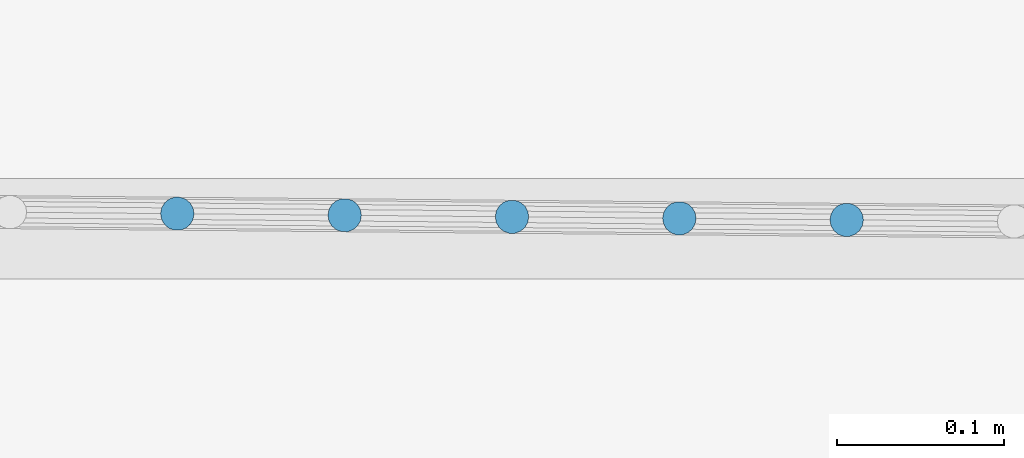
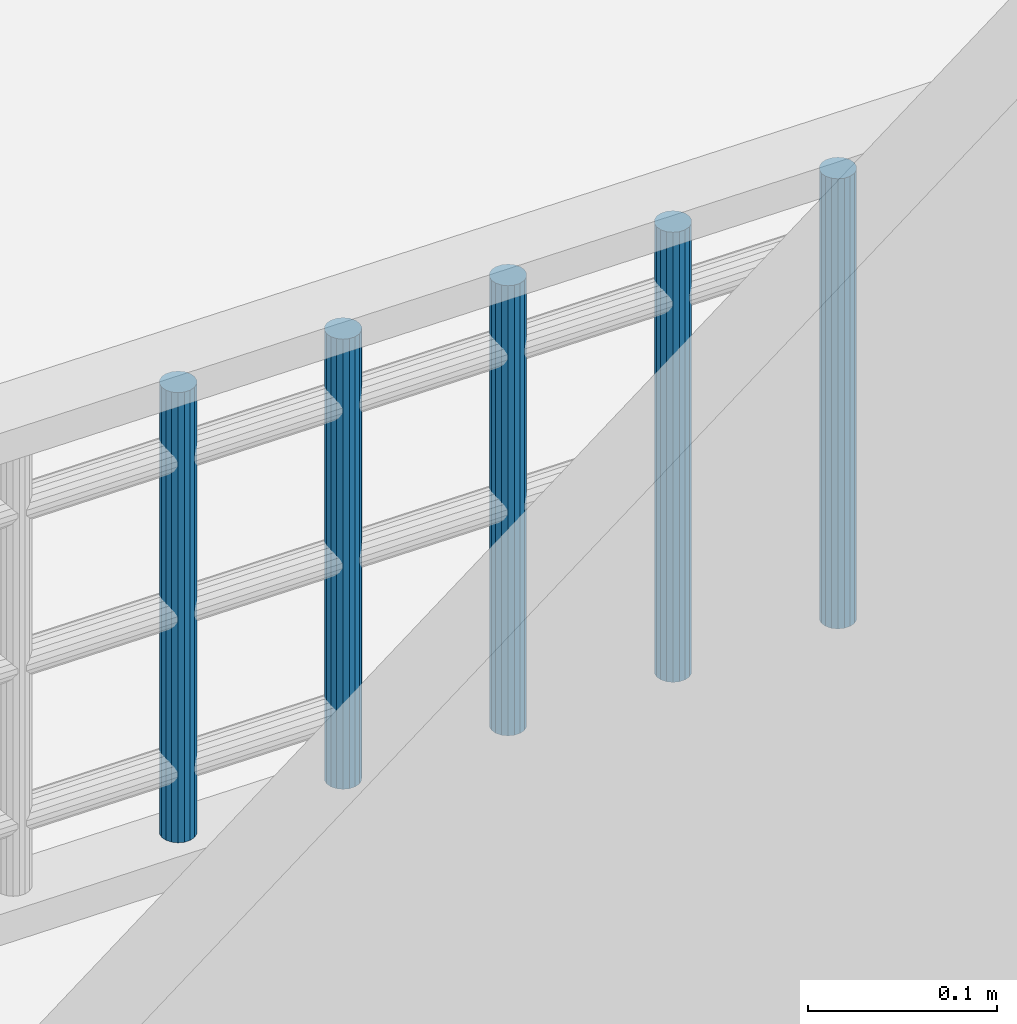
# One storey, part 23 of 66: 5 members, 1 element without a shape of its own.
"""IFC2X3 building model written with IfcOpenShell, lengths in centimetres."""

from ifc_helpers import new_model, entity, si_unit, converted_unit, direction, frame, origin, origin_with_axes, place, context, subcontext, project, spatial, faceted_brep, material, type_object, element, aggregate, save


model = new_model("IFC2X3")

# Units and contexts
model_context = context("Model", 3, precision=0.0001, world=origin(), true_north=direction((0.225632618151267, 0.974212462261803, 0.0)))
body_context = subcontext(model_context, "Body", "Model", "MODEL_VIEW")
ifc_project = project(units=[si_unit("LENGTHUNIT", "METRE", prefix="CENTI"), si_unit("AREAUNIT", "SQUARE_METRE", prefix="CENTI"), si_unit("VOLUMEUNIT", "CUBIC_METRE", prefix="CENTI"), converted_unit("PLANEANGLEUNIT", "DEGREE", entity("IfcRatioMeasure", 0.0174532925), si_unit("PLANEANGLEUNIT", "RADIAN"), dimensions=[0, 0, 0, 0, 0, 0, 0])], contexts=[model_context])

# Site, building, storey
site_placement = place(None, origin_with_axes())
site = spatial("IfcSite", under=ifc_project, at=site_placement, Name="Default Site", CompositionType="ELEMENT")
building_placement = place(site_placement, origin_with_axes())
building = spatial("IfcBuilding", under=site, at=building_placement, Name="Default Building", CompositionType="ELEMENT")
storey_placement = place(building_placement, frame((0.0, 0.0, 477.795358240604), z_axis=(0.0, 0.0, 1.0), x_axis=(1.0, 0.0, 0.0)))
storey = spatial("IfcBuildingStorey", under=building, at=storey_placement, Name="Niveau 1", CompositionType="ELEMENT", Elevation=477.795358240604)

# Assembly, members
building_element_proxy_type = type_object("IfcBuildingElementProxyType", Name="Type Object", PredefinedType="NOTDEFINED")
assembly_placement = place(storey_placement, frame((1081.09889200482, -848.13, 9.99999999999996), z_axis=(0.0, 0.0, 1.0), x_axis=(-0.999957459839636, 0.00922380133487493, 0.0)))
assembly = element("IfcElementAssembly", 1, at=assembly_placement, inside=storey, type_object=building_element_proxy_type, Name="Panneau 1702007", ObjectType="Precast panel", PredefinedType="USERDEFINED")
ifc_material = material(Name="Aluminium satiné")
member_1_placement = place(assembly_placement, frame((57.4396908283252, 0.342020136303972, 31.0000002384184), z_axis=(0.0, 0.0, 1.0), x_axis=(0.499995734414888, -0.866027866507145, 0.0)))
member_1 = element("IfcMember", 2, at=member_1_placement, material=ifc_material, Name="4294967034", context=body_context, shape_type="Brep", body=[
    faceted_brep([(-1.0325074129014e-12, -4.77395900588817e-13, 4.05231403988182e-13), (-0.347295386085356, -4.88498130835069e-13, 4.05231403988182e-13), (-0.673647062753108, -0.118784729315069, 4.05231403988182e-13), (-0.939691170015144, -0.342025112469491, 4.05231403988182e-13), (-1.1133359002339, -0.642790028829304, 4.05231403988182e-13), (-1.17364232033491, -0.984811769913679, 4.05231403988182e-13), (-1.1133337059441, -1.32683238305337, 4.05231403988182e-13), (-0.939683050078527, -1.62759729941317, 4.05231403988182e-13), (-0.673637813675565, -1.85083429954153, 4.05231403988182e-13), (-0.347285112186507, -1.96961451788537, 4.05231403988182e-13), (1.02738978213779e-05, -1.96961451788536, 4.05231403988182e-13), (0.326361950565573, -1.85082978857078, 4.05231403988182e-13), (0.592406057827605, -1.62758940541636, 4.05231403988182e-13), (0.766050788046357, -1.32682448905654, 4.05231403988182e-13), (0.826357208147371, -0.984802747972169, 4.05231403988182e-13), (0.766048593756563, -0.642782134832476, 4.05231403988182e-13), (0.592397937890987, -0.342017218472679, 4.05231403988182e-13), (0.326352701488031, -0.118780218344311, 4.05231403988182e-13), (0.326352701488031, -0.118780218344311, -29.0000002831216), (0.592397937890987, -0.342017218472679, -29.0000002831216), (0.766048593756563, -0.642782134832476, -29.0000002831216), (0.826357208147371, -0.984802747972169, -29.0000002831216), (0.766050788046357, -1.32682448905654, -29.0000002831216), (0.592406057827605, -1.62758940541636, -29.0000002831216), (0.326361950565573, -1.85082978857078, -29.0000002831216), (1.02738978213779e-05, -1.96961451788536, -29.0000002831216), (-0.347285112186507, -1.96961451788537, -29.0000002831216), (-0.673637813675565, -1.85083429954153, -29.0000002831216), (-0.939683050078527, -1.62759729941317, -29.0000002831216), (-1.1133337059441, -1.32683238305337, -29.0000002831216), (-1.17364232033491, -0.984811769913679, -29.0000002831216), (-1.1133359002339, -0.642790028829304, -29.0000002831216), (-0.939691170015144, -0.342025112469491, -29.0000002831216), (-0.673647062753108, -0.118784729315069, -29.0000002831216), (-0.347295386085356, -4.88498130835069e-13, -29.0000002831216), (-1.0325074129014e-12, -4.77395900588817e-13, -29.0000002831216), (0.592398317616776, -0.342016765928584, 4.05231403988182e-13), (0.592398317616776, -0.342016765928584, -29.0000002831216), (0.766047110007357, -0.642782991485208, 4.05231403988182e-13), (0.766047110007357, -0.642782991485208, -29.0000002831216), (0.826357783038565, -0.984802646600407, 4.05231403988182e-13), (0.826357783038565, -0.984802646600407, -29.0000002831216), (0.766051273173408, -1.32682457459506, 4.05231403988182e-13), (0.766051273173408, -1.32682457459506, -29.0000002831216), (0.592406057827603, -1.62758940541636, 4.05231403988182e-13), (0.592406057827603, -1.62758940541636, -29.0000002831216), (0.326361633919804, -1.85082941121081, 4.05231403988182e-13), (0.326361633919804, -1.85082941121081, -29.0000002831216), (1.00742373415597e-05, -1.96961396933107, 4.05231403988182e-13), (1.00742373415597e-05, -1.96961396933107, -29.0000002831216), (-0.347285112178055, -1.96961623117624, 4.05231403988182e-13), (-0.347285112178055, -1.96961623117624, -29.0000002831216), (-0.673637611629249, -1.85083374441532, 4.05231403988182e-13), (-0.673637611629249, -1.85083374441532, -29.0000002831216), (-0.939683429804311, -1.62759775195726, 4.05231403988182e-13), (-0.939683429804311, -1.62759775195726, -29.0000002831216), (-1.1133322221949, -1.32683152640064, 4.05231403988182e-13), (-1.1133322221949, -1.32683152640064, -29.0000002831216), (-1.1736428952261, -0.984811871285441, 4.05231403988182e-13), (-1.1736428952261, -0.984811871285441, -29.0000002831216), (-1.11333638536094, -0.642789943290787, 4.05231403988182e-13), (-1.11333638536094, -0.642789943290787, -29.0000002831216), (-0.939691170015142, -0.342025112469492, 4.05231403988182e-13), (-0.939691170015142, -0.342025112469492, -29.0000002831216), (-0.67364674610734, -0.118785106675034, 4.05231403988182e-13), (-0.67364674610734, -0.118785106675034, -29.0000002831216), (-0.347295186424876, -5.48554780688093e-07, 4.05231403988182e-13), (-0.347295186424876, -5.48554780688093e-07, -29.0000002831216), (-9.48457941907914e-12, 1.71329038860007e-06, 4.05231403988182e-13), (-9.48457941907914e-12, 1.71329038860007e-06, -29.0000002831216), (0.326352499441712, -0.118780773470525, 4.05231403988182e-13), (0.326352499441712, -0.118780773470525, -29.0000002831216)], [[[0, 1, 2, 3, 4, 5, 6, 7, 8, 9, 10, 11, 12, 13, 14, 15, 16, 17]], [[18, 19, 20, 21, 22, 23, 24, 25, 26, 27, 28, 29, 30, 31, 32, 33, 34, 35]], [[17, 36, 37, 18]], [[16, 38, 39, 19]], [[15, 40, 41, 20]], [[14, 42, 43, 21]], [[13, 44, 45, 22]], [[12, 46, 47, 23]], [[11, 48, 49, 24]], [[10, 50, 51, 25]], [[9, 52, 53, 26]], [[8, 54, 55, 27]], [[7, 56, 57, 28]], [[6, 58, 59, 29]], [[5, 60, 61, 30]], [[4, 62, 63, 31]], [[3, 64, 65, 32]], [[2, 66, 67, 33]], [[1, 68, 69, 34]], [[0, 70, 71, 35]]]),
])
member_2_placement = place(assembly_placement, frame((67.4396932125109, 0.342020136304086, 31.0000002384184), z_axis=(0.0, 0.0, 1.0), x_axis=(0.499995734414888, -0.866027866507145, 0.0)))
member_2 = element("IfcMember", 3, at=member_2_placement, material=ifc_material, Name="4294967033", context=body_context, shape_type="Brep", body=[
    faceted_brep([(-1.0769163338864e-12, -4.32986979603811e-13, 4.05231403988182e-13), (-0.347295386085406, -4.44089209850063e-13, 4.05231403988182e-13), (-0.673647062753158, -0.118784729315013, 4.05231403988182e-13), (-0.939691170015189, -0.342025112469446, 4.05231403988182e-13), (-1.11333888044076, -0.642795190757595, 4.05231403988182e-13), (-1.17364232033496, -0.984811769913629, 4.05231403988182e-13), (-1.11333370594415, -1.32683238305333, 4.05231403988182e-13), (-0.939686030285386, -1.62760246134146, 4.05231403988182e-13), (-0.67364079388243, -1.85083946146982, 4.05231403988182e-13), (-0.347288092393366, -1.96961967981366, 4.05231403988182e-13), (1.02738977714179e-05, -1.96961451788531, 4.05231403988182e-13), (0.326361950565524, -1.85082978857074, 4.05231403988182e-13), (0.592403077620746, -1.62759456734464, 4.05231403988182e-13), (0.766050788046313, -1.32682448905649, 4.05231403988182e-13), (0.826357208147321, -0.984802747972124, 4.05231403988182e-13), (0.766048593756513, -0.64278213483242, 4.05231403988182e-13), (0.592397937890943, -0.342017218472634, 4.05231403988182e-13), (0.326352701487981, -0.118780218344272, 4.05231403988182e-13), (0.326352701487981, -0.118780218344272, -29.0000002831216), (0.592397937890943, -0.342017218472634, -29.0000002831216), (0.766048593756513, -0.64278213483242, -29.0000002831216), (0.826357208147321, -0.984802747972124, -29.0000002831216), (0.766050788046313, -1.32682448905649, -29.0000002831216), (0.592403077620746, -1.62759456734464, -29.0000002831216), (0.326361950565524, -1.85082978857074, -29.0000002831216), (1.02738977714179e-05, -1.96961451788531, -29.0000002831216), (-0.347288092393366, -1.96961967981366, -29.0000002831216), (-0.67364079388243, -1.85083946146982, -29.0000002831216), (-0.939686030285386, -1.62760246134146, -29.0000002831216), (-1.11333370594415, -1.32683238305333, -29.0000002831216), (-1.17364232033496, -0.984811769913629, -29.0000002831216), (-1.11333888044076, -0.642795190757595, -29.0000002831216), (-0.939691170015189, -0.342025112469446, -29.0000002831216), (-0.673647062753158, -0.118784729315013, -29.0000002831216), (-0.347295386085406, -4.44089209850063e-13, -29.0000002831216), (-1.0769163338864e-12, -4.32986979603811e-13, -29.0000002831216), (0.592398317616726, -0.342016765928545, 4.05231403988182e-13), (0.592398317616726, -0.342016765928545, -29.0000002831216), (0.766047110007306, -0.642782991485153, 4.05231403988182e-13), (0.766047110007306, -0.642782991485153, -29.0000002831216), (0.826357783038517, -0.984802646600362, 4.05231403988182e-13), (0.826357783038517, -0.984802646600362, -29.0000002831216), (0.76605127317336, -1.32682457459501, 4.05231403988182e-13), (0.76605127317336, -1.32682457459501, -29.0000002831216), (0.592403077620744, -1.62759456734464, 4.05231403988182e-13), (0.592403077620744, -1.62759456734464, -29.0000002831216), (0.326362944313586, -1.85083097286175, 4.05231403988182e-13), (0.326362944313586, -1.85083097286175, -29.0000002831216), (1.00742372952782e-05, -1.96961396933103, 4.05231403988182e-13), (1.00742372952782e-05, -1.96961396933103, -29.0000002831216), (-0.347288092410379, -1.96961623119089, 4.05231403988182e-13), (-0.347288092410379, -1.96961623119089, -29.0000002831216), (-0.673640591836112, -1.85083890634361, 4.05231403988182e-13), (-0.673640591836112, -1.85083890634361, -29.0000002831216), (-0.939686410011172, -1.62760291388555, 4.05231403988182e-13), (-0.939686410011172, -1.62760291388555, -29.0000002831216), (-1.11333669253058, -1.3268341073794, 4.05231403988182e-13), (-1.11333669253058, -1.3268341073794, -29.0000002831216), (-1.17364289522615, -0.984811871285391, 4.05231403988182e-13), (-1.17364289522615, -0.984811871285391, -29.0000002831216), (-1.11333735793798, -0.642795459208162, 4.05231403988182e-13), (-1.11333735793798, -0.642795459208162, -29.0000002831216), (-0.939691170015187, -0.342025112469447, 4.05231403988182e-13), (-0.939691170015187, -0.342025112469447, -29.0000002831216), (-0.673646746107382, -0.118785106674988, 4.05231403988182e-13), (-0.673646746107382, -0.118785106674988, -29.0000002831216), (-0.347295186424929, -5.48554726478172e-07, 4.05231403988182e-13), (-0.347295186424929, -5.48554726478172e-07, -29.0000002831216), (-9.52898834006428e-12, 1.71329043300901e-06, 4.05231403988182e-13), (-9.52898834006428e-12, 1.71329043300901e-06, -29.0000002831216), (0.326352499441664, -0.11878077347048, 4.05231403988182e-13), (0.326352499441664, -0.11878077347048, -29.0000002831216)], [[[0, 1, 2, 3, 4, 5, 6, 7, 8, 9, 10, 11, 12, 13, 14, 15, 16, 17]], [[18, 19, 20, 21, 22, 23, 24, 25, 26, 27, 28, 29, 30, 31, 32, 33, 34, 35]], [[17, 36, 37, 18]], [[16, 38, 39, 19]], [[15, 40, 41, 20]], [[14, 42, 43, 21]], [[13, 44, 45, 22]], [[12, 46, 47, 23]], [[11, 48, 49, 24]], [[10, 50, 51, 25]], [[9, 52, 53, 26]], [[8, 54, 55, 27]], [[7, 56, 57, 28]], [[6, 58, 59, 29]], [[5, 60, 61, 30]], [[4, 62, 63, 31]], [[3, 64, 65, 32]], [[2, 66, 67, 33]], [[1, 68, 69, 34]], [[0, 70, 71, 35]]]),
])
member_3_placement = place(assembly_placement, frame((77.4396955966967, 0.342020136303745, 31.0000002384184), z_axis=(0.0, 0.0, 1.0), x_axis=(0.500008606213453, -0.866020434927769, 0.0)))
member_3 = element("IfcMember", 4, at=member_3_placement, material=ifc_material, Name="4294967032", context=body_context, shape_type="Brep", body=[
    faceted_brep([(-1.19904086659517e-12, -6.21724893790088e-13, 5.05151476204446e-13), (-0.347298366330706, -6.21724893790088e-13, 5.05151476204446e-13), (-0.673651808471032, -0.118779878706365, 5.05151476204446e-13), (-0.939696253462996, -0.34201114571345, 5.05151476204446e-13), (-1.11334843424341, -0.642778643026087, 5.05151476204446e-13), (-1.17365993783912, -0.98479948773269, 5.05151476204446e-13), (-1.11335640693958, -1.32682099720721, 5.05151476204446e-13), (-0.939710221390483, -1.62758849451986, 5.05151476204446e-13), (-0.673668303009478, -1.85082944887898, 5.05151476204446e-13), (-0.347317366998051, -1.96961451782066, 5.05151476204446e-13), (-2.19809520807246e-05, -1.96961967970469, 5.05151476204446e-13), (0.326331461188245, -1.85083980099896, 5.05151476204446e-13), (0.592378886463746, -1.62760337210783, 5.05151476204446e-13), (0.766031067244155, -1.3268358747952, 5.05151476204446e-13), (0.826339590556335, -0.984820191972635, 5.05151476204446e-13), (0.766036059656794, -0.642798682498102, 5.05151476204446e-13), (0.592392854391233, -0.342026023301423, 5.05151476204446e-13), (0.326347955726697, -0.118790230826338, 5.05151476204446e-13), (0.326347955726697, -0.118790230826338, -29.0000002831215), (0.592392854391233, -0.342026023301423, -29.0000002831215), (0.766036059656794, -0.642798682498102, -29.0000002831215), (0.826339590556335, -0.984820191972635, -29.0000002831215), (0.766031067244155, -1.3268358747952, -29.0000002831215), (0.592378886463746, -1.62760337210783, -29.0000002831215), (0.326331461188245, -1.85083980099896, -29.0000002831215), (-2.19809520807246e-05, -1.96961967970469, -29.0000002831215), (-0.347317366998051, -1.96961451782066, -29.0000002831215), (-0.673668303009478, -1.85082944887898, -29.0000002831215), (-0.939710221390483, -1.62758849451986, -29.0000002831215), (-1.11335640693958, -1.32682099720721, -29.0000002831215), (-1.17365993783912, -0.98479948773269, -29.0000002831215), (-1.11334843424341, -0.642778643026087, -29.0000002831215), (-0.939696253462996, -0.34201114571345, -29.0000002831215), (-0.673651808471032, -0.118779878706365, -29.0000002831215), (-0.347298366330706, -6.21724893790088e-13, -29.0000002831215), (-1.19904086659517e-12, -6.21724893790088e-13, -29.0000002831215), (0.592389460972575, -0.342030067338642, 5.05151476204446e-13), (0.592389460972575, -0.342030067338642, -29.0000002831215), (0.766039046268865, -0.642796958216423, 5.05151476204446e-13), (0.766039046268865, -0.642796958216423, -29.0000002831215), (0.826340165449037, -0.984820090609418, 5.05151476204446e-13), (0.826340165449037, -0.984820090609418, -29.0000002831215), (0.766029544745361, -1.326835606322, 5.05151476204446e-13), (0.766029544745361, -1.326835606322, -29.0000002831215), (0.59237888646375, -1.62760337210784, 5.05151476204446e-13), (0.59237888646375, -1.62760337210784, -29.0000002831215), (0.326331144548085, -1.85083942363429, 5.05151476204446e-13), (0.326331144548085, -1.85083942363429, -29.0000002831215), (-2.21806044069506e-05, -1.96961913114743, 5.05151476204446e-13), (-2.21806044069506e-05, -1.96961913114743, -29.0000002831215), (-0.347317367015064, -1.96961623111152, 5.05151476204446e-13), (-0.347317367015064, -1.96961623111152, -29.0000002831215), (-0.673668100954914, -1.85082889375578, 5.05151476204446e-13), (-0.673668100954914, -1.85082889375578, -29.0000002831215), (-0.939710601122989, -1.6275889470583, 5.05151476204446e-13), (-0.939710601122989, -1.6275889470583, -29.0000002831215), (-1.11335492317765, -1.32682014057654, 5.05151476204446e-13), (-1.11335492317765, -1.32682014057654, -29.0000002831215), (-1.17366051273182, -0.984799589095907, 5.05151476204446e-13), (-1.17366051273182, -0.984799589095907, -29.0000002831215), (-1.11334891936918, -0.64277855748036, 5.05151476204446e-13), (-1.11334891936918, -0.64277855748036, -29.0000002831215), (-0.939696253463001, -0.342011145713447, 5.05151476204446e-13), (-0.939696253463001, -0.342011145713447, -29.0000002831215), (-0.673652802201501, -0.11877869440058, 5.05151476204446e-13), (-0.673652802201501, -0.11877869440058, -29.0000002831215), (-0.347298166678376, -5.48557890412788e-07, 5.05151476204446e-13), (-0.347298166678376, -5.48557890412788e-07, -29.0000002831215), (-3.54433683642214e-11, -3.44862338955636e-06, 5.05151476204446e-13), (-3.54433683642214e-11, -3.44862338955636e-06, -29.0000002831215), (0.326349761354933, -0.118785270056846, 5.05151476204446e-13), (0.326349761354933, -0.118785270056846, -29.0000002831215)], [[[0, 1, 2, 3, 4, 5, 6, 7, 8, 9, 10, 11, 12, 13, 14, 15, 16, 17]], [[18, 19, 20, 21, 22, 23, 24, 25, 26, 27, 28, 29, 30, 31, 32, 33, 34, 35]], [[17, 36, 37, 18]], [[16, 38, 39, 19]], [[15, 40, 41, 20]], [[14, 42, 43, 21]], [[13, 44, 45, 22]], [[12, 46, 47, 23]], [[11, 48, 49, 24]], [[10, 50, 51, 25]], [[9, 52, 53, 26]], [[8, 54, 55, 27]], [[7, 56, 57, 28]], [[6, 58, 59, 29]], [[5, 60, 61, 30]], [[4, 62, 63, 31]], [[3, 64, 65, 32]], [[2, 66, 67, 33]], [[1, 68, 69, 34]], [[0, 70, 71, 35]]]),
])
member_4_placement = place(assembly_placement, frame((87.4396920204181, 0.342020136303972, 31.0000002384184), z_axis=(0.0, 0.0, 1.0), x_axis=(0.499995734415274, -0.866027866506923, 0.0)))
member_4 = element("IfcMember", 5, at=member_4_placement, material=ifc_material, Name="4294967031", context=body_context, shape_type="Brep", body=[
    faceted_brep([(-1.0991207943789e-12, -3.99680288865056e-13, 3.27515792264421e-13), (-0.347295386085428, -2.66453525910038e-13, 3.27515792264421e-13), (-0.673647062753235, -0.118784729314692, 3.27515792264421e-13), (-0.939691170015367, -0.342025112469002, 3.27515792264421e-13), (-1.11333590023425, -0.642790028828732, 3.27515792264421e-13), (-1.17364232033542, -0.984811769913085, 3.27515792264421e-13), (-1.11333370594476, -1.3268323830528, 3.27515792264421e-13), (-0.939683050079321, -1.62759729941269, 3.27515792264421e-13), (-0.673637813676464, -1.85083429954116, 3.27515792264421e-13), (-0.347285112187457, -1.96961451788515, 3.27515792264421e-13), (1.02738968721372e-05, -1.96961451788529, 3.27515792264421e-13), (0.326361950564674, -1.85082978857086, 3.27515792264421e-13), (0.592406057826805, -1.62758940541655, 3.27515792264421e-13), (0.766050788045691, -1.32682448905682, 3.27515792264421e-13), (0.826357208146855, -0.984802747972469, 3.27515792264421e-13), (0.766048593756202, -0.642782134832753, 3.27515792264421e-13), (0.592397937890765, -0.342017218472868, 3.27515792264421e-13), (0.326352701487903, -0.118780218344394, 3.27515792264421e-13), (0.326352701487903, -0.118780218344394, -29.0000002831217), (0.592397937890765, -0.342017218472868, -29.0000002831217), (0.766048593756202, -0.642782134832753, -29.0000002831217), (0.826357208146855, -0.984802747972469, -29.0000002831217), (0.766050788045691, -1.32682448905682, -29.0000002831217), (0.592406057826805, -1.62758940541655, -29.0000002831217), (0.326361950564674, -1.85082978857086, -29.0000002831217), (1.02738968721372e-05, -1.96961451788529, -29.0000002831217), (-0.347285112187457, -1.96961451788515, -29.0000002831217), (-0.673637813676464, -1.85083429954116, -29.0000002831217), (-0.939683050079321, -1.62759729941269, -29.0000002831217), (-1.11333370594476, -1.3268323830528, -29.0000002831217), (-1.17364232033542, -0.984811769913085, -29.0000002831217), (-1.11333590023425, -0.642790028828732, -29.0000002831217), (-0.939691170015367, -0.342025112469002, -29.0000002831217), (-0.673647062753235, -0.118784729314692, -29.0000002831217), (-0.347295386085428, -2.66453525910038e-13, -29.0000002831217), (-1.0991207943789e-12, -3.99680288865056e-13, -29.0000002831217), (0.592398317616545, -0.342016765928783, 3.27515792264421e-13), (0.592398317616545, -0.342016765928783, -29.0000002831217), (0.766047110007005, -0.642782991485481, 3.27515792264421e-13), (0.766047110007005, -0.642782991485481, -29.0000002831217), (0.826357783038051, -0.984802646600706, 3.27515792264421e-13), (0.826357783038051, -0.984802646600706, -29.0000002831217), (0.766051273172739, -1.32682457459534, 3.27515792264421e-13), (0.766051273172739, -1.32682457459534, -29.0000002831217), (0.326361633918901, -1.85082941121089, 3.27515792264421e-13), (0.326361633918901, -1.85082941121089, -29.0000002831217), (1.00742363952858e-05, -1.969613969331, 3.27515792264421e-13), (1.00742363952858e-05, -1.969613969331, -29.0000002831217), (-0.347285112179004, -1.96961623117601, 3.27515792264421e-13), (-0.347285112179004, -1.96961623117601, -29.0000002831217), (-0.673637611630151, -1.85083374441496, 3.27515792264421e-13), (-0.673637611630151, -1.85083374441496, -29.0000002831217), (-0.939683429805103, -1.62759775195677, 3.27515792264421e-13), (-0.939683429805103, -1.62759775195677, -29.0000002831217), (-1.11333222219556, -1.32683152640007, 3.27515792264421e-13), (-1.11333222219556, -1.32683152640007, -29.0000002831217), (-1.17364289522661, -0.984811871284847, 3.27515792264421e-13), (-1.17364289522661, -0.984811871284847, -29.0000002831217), (-1.1133363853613, -0.642789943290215, 3.27515792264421e-13), (-1.1133363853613, -0.642789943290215, -29.0000002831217), (-0.673646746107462, -0.118785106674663, 3.27515792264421e-13), (-0.673646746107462, -0.118785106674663, -29.0000002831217), (-0.347295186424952, -5.48554548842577e-07, 3.27515792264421e-13), (-0.347295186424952, -5.48554548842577e-07, -29.0000002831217), (-9.55119198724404e-12, 1.71329045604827e-06, 3.27515792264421e-13), (-9.55119198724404e-12, 1.71329045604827e-06, -29.0000002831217), (0.32635249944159, -0.118780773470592, 3.27515792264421e-13), (0.32635249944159, -0.118780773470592, -29.0000002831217)], [[[0, 1, 2, 3, 4, 5, 6, 7, 8, 9, 10, 11, 12, 13, 14, 15, 16, 17]], [[18, 19, 20, 21, 22, 23, 24, 25, 26, 27, 28, 29, 30, 31, 32, 33, 34, 35]], [[17, 36, 37, 18]], [[16, 38, 39, 19]], [[15, 40, 41, 20]], [[14, 42, 43, 21]], [[13, 12, 23, 22]], [[12, 44, 45, 23]], [[11, 46, 47, 24]], [[10, 48, 49, 25]], [[9, 50, 51, 26]], [[8, 52, 53, 27]], [[7, 54, 55, 28]], [[6, 56, 57, 29]], [[5, 58, 59, 30]], [[4, 3, 32, 31]], [[3, 60, 61, 32]], [[2, 62, 63, 33]], [[1, 64, 65, 34]], [[0, 66, 67, 35]]]),
])
member_5_placement = place(assembly_placement, frame((97.4396944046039, 0.342020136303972, 31.0000002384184), z_axis=(0.0, 0.0, 1.0), x_axis=(0.500008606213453, -0.866020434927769, 0.0)))
member_5 = element("IfcMember", 6, at=member_5_placement, material=ifc_material, Name="4294967030", context=body_context, shape_type="Brep", body=[
    faceted_brep([(-1.2490009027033e-12, -4.55191440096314e-13, 5.05151476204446e-13), (-0.347298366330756, -4.55191440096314e-13, 5.05151476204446e-13), (-0.673648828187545, -0.118774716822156, 5.05151476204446e-13), (-0.939696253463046, -0.342011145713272, 5.05151476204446e-13), (-1.11334843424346, -0.642778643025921, 5.05151476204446e-13), (-1.17365993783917, -0.984799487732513, 5.05151476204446e-13), (-1.11335342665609, -1.326815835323, 5.05151476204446e-13), (-0.939710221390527, -1.62758849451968, 5.05151476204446e-13), (-0.673668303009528, -1.85082944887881, 5.05151476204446e-13), (-0.347317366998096, -1.96961451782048, 5.05151476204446e-13), (-1.90006685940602e-05, -1.96961451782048, 5.05151476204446e-13), (0.326331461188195, -1.85083980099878, 5.05151476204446e-13), (0.592378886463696, -1.62760337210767, 5.05151476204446e-13), (0.766031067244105, -1.32683587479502, 5.05151476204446e-13), (0.826342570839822, -0.984815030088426, 5.05151476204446e-13), (0.766036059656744, -0.642798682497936, 5.05151476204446e-13), (0.592392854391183, -0.342026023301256, 5.05151476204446e-13), (0.326350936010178, -0.118785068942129, 5.05151476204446e-13), (0.326350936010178, -0.118785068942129, -29.0000002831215), (0.592392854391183, -0.342026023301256, -29.0000002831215), (0.766036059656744, -0.642798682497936, -29.0000002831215), (0.826342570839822, -0.984815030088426, -29.0000002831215), (0.766031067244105, -1.32683587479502, -29.0000002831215), (0.592378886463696, -1.62760337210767, -29.0000002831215), (0.326331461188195, -1.85083980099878, -29.0000002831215), (-1.90006685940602e-05, -1.96961451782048, -29.0000002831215), (-0.347317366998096, -1.96961451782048, -29.0000002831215), (-0.673668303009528, -1.85082944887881, -29.0000002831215), (-0.939710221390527, -1.62758849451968, -29.0000002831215), (-1.11335342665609, -1.326815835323, -29.0000002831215), (-1.17365993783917, -0.984799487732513, -29.0000002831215), (-1.11334843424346, -0.642778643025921, -29.0000002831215), (-0.939696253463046, -0.342011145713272, -29.0000002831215), (-0.673648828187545, -0.118774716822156, -29.0000002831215), (-0.347298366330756, -4.55191440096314e-13, -29.0000002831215), (-1.2490009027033e-12, -4.55191440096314e-13, -29.0000002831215), (0.592393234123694, -0.342025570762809, 5.05151476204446e-13), (0.592393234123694, -0.342025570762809, -29.0000002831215), (0.766039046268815, -0.642796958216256, 5.05151476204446e-13), (0.766039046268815, -0.642796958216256, -29.0000002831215), (0.826339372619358, -0.984815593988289, 5.05151476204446e-13), (0.826339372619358, -0.984815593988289, -29.0000002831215), (0.766031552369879, -1.32683596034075, 5.05151476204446e-13), (0.766031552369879, -1.32683596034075, -29.0000002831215), (0.32633114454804, -1.85083942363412, 5.05151476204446e-13), (0.32633114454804, -1.85083942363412, -29.0000002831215), (-1.78899706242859e-05, -1.96961756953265, 5.05151476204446e-13), (-1.78899706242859e-05, -1.96961756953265, -29.0000002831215), (-0.347317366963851, -1.96961106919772, 5.05151476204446e-13), (-0.347317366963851, -1.96961106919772, -29.0000002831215), (-0.67366810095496, -1.8508288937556, 5.05151476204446e-13), (-0.67366810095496, -1.8508288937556, -29.0000002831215), (-0.939710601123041, -1.62758894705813, 5.05151476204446e-13), (-0.939710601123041, -1.62758894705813, -29.0000002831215), (-1.11335641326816, -1.32681755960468, 5.05151476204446e-13), (-1.11335641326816, -1.32681755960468, -29.0000002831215), (-1.17365673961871, -0.98479892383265, 5.05151476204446e-13), (-1.17365673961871, -0.98479892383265, -29.0000002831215), (-1.11334891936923, -0.642778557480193, 5.05151476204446e-13), (-1.11334891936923, -0.642778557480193, -29.0000002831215), (-0.939696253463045, -0.342011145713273, 5.05151476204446e-13), (-0.939696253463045, -0.342011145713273, -29.0000002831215), (-0.67364851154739, -0.118775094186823, 5.05151476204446e-13), (-0.67364851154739, -0.118775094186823, -29.0000002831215), (-0.347299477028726, 3.05171171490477e-06, 5.05151476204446e-13), (-0.347299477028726, 3.05171171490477e-06, -29.0000002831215), (-3.54933284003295e-11, -3.4486232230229e-06, 5.05151476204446e-13), (-3.54933284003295e-11, -3.4486232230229e-06, -29.0000002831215), (0.32635073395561, -0.118785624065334, 5.05151476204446e-13), (0.32635073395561, -0.118785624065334, -29.0000002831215)], [[[0, 1, 2, 3, 4, 5, 6, 7, 8, 9, 10, 11, 12, 13, 14, 15, 16, 17]], [[18, 19, 20, 21, 22, 23, 24, 25, 26, 27, 28, 29, 30, 31, 32, 33, 34, 35]], [[17, 36, 37, 18]], [[16, 38, 39, 19]], [[15, 40, 41, 20]], [[14, 42, 43, 21]], [[13, 12, 23, 22]], [[12, 44, 45, 23]], [[11, 46, 47, 24]], [[10, 48, 49, 25]], [[9, 50, 51, 26]], [[8, 52, 53, 27]], [[7, 54, 55, 28]], [[6, 56, 57, 29]], [[5, 58, 59, 30]], [[4, 60, 61, 31]], [[3, 62, 63, 32]], [[2, 64, 65, 33]], [[1, 66, 67, 34]], [[0, 68, 69, 35]]]),
])
aggregate(assembly, [member_1, member_2, member_3, member_4, member_5])

save(model, "model.ifc")
